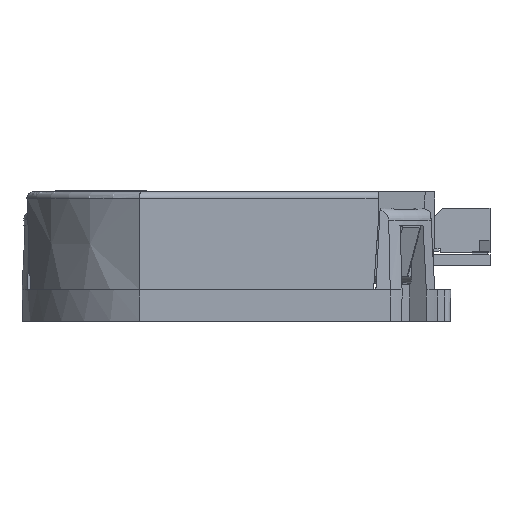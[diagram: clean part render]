
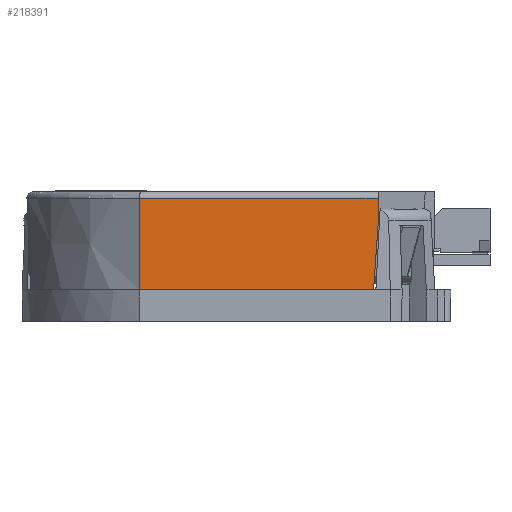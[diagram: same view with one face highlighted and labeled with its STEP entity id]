
A CAD part, left-side view. The second image highlights one B-rep face of the part: STEP entity #218391.
In plain terms, the highlighted planar face has unit normal (-1, 0, -0.018) as drawn and (1, 0, 0.017) by its records, which use the part's own axes.
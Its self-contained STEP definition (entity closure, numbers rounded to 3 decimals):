
#7283 = LINE ( 'NONE', #176901, #192316 ) ;
#9168 = EDGE_CURVE ( 'NONE', #201963, #202354, #41729, .T. ) ;
#10954 = VECTOR ( 'NONE', #140017, 1000. ) ;
#33324 = B_SPLINE_CURVE_WITH_KNOTS ( 'NONE', 3,
 ( #61200, #214722, #172572, #236745 ),
 .UNSPECIFIED., .F., .F.,
 ( 4, 4 ),
 ( 0., 0.007 ),
 .UNSPECIFIED. ) ;
#41729 = LINE ( 'NONE', #180504, #10954 ) ;
#56902 = VERTEX_POINT ( 'NONE', #177988 ) ;
#57833 = DIRECTION ( 'NONE',  ( 1., 0., 0.017 ) ) ;
#59984 = EDGE_CURVE ( 'NONE', #261586, #119444, #7283, .T. ) ;
#61200 = CARTESIAN_POINT ( 'NONE',  ( 14.164, 5.953, 6.5 ) ) ;
#77391 = LINE ( 'NONE', #93873, #156584 ) ;
#80724 = DIRECTION ( 'NONE',  ( 0.017, 0., -1. ) ) ;
#93873 = CARTESIAN_POINT ( 'NONE',  ( 14.284, -13.13, -0.382 ) ) ;
#108875 = ORIENTED_EDGE ( 'NONE', *, *, #9168, .F. ) ;
#119444 = VERTEX_POINT ( 'NONE', #156569 ) ;
#123012 = PLANE ( 'NONE',  #138064 ) ;
#123059 = EDGE_CURVE ( 'NONE', #202354, #56902, #33324, .T. ) ;
#127754 = CARTESIAN_POINT ( 'NONE',  ( 14.164, -12.648, 6.5 ) ) ;
#129772 = LINE ( 'NONE', #166753, #270476 ) ;
#138064 = AXIS2_PLACEMENT_3D ( 'NONE', #167348, #57833, #80724 ) ;
#140017 = DIRECTION ( 'NONE',  ( 0., 1., 0. ) ) ;
#141275 = ORIENTED_EDGE ( 'NONE', *, *, #123059, .F. ) ;
#144091 = EDGE_LOOP ( 'NONE', ( #182336, #265509, #141275, #108875, #280339 ) ) ;
#147951 = EDGE_CURVE ( 'NONE', #119444, #201963, #77391, .T. ) ;
#155801 = DIRECTION ( 'NONE',  ( -0.017, 0., 1. ) ) ;
#156569 = CARTESIAN_POINT ( 'NONE',  ( 14.253, -13.005, 1.4 ) ) ;
#156584 = VECTOR ( 'NONE', #179524, 1000. ) ;
#166753 = CARTESIAN_POINT ( 'NONE',  ( 14.291, 5.98, -0.791 ) ) ;
#167348 = CARTESIAN_POINT ( 'NONE',  ( 14.3, 0., -1.3 ) ) ;
#172572 = CARTESIAN_POINT ( 'NONE',  ( 14.249, 5.97, 1.639 ) ) ;
#173391 = EDGE_CURVE ( 'NONE', #261586, #56902, #129772, .T. ) ;
#176901 = CARTESIAN_POINT ( 'NONE',  ( 14.3, -13.005, -1.3 ) ) ;
#177988 = CARTESIAN_POINT ( 'NONE',  ( 14.291, 5.978, -0.791 ) ) ;
#179524 = DIRECTION ( 'NONE',  ( -0.017, 0.07, 0.997 ) ) ;
#180504 = CARTESIAN_POINT ( 'NONE',  ( 14.164, 0., 6.5 ) ) ;
#182336 = ORIENTED_EDGE ( 'NONE', *, *, #59984, .F. ) ;
#192316 = VECTOR ( 'NONE', #155801, 1000. ) ;
#198051 = CARTESIAN_POINT ( 'NONE',  ( 14.291, -13.005, -0.791 ) ) ;
#201963 = VERTEX_POINT ( 'NONE', #127754 ) ;
#202354 = VERTEX_POINT ( 'NONE', #274073 ) ;
#214722 = CARTESIAN_POINT ( 'NONE',  ( 14.206, 5.961, 4.07 ) ) ;
#218391 = ADVANCED_FACE ( 'NONE', ( #282366 ), #123012, .T. ) ;
#234631 = DIRECTION ( 'NONE',  ( 0., 1., 0. ) ) ;
#236745 = CARTESIAN_POINT ( 'NONE',  ( 14.291, 5.978, -0.791 ) ) ;
#261586 = VERTEX_POINT ( 'NONE', #198051 ) ;
#265509 = ORIENTED_EDGE ( 'NONE', *, *, #173391, .T. ) ;
#270476 = VECTOR ( 'NONE', #234631, 1000. ) ;
#274073 = CARTESIAN_POINT ( 'NONE',  ( 14.164, 5.953, 6.5 ) ) ;
#280339 = ORIENTED_EDGE ( 'NONE', *, *, #147951, .F. ) ;
#282366 = FACE_OUTER_BOUND ( 'NONE', #144091, .T. ) ;
